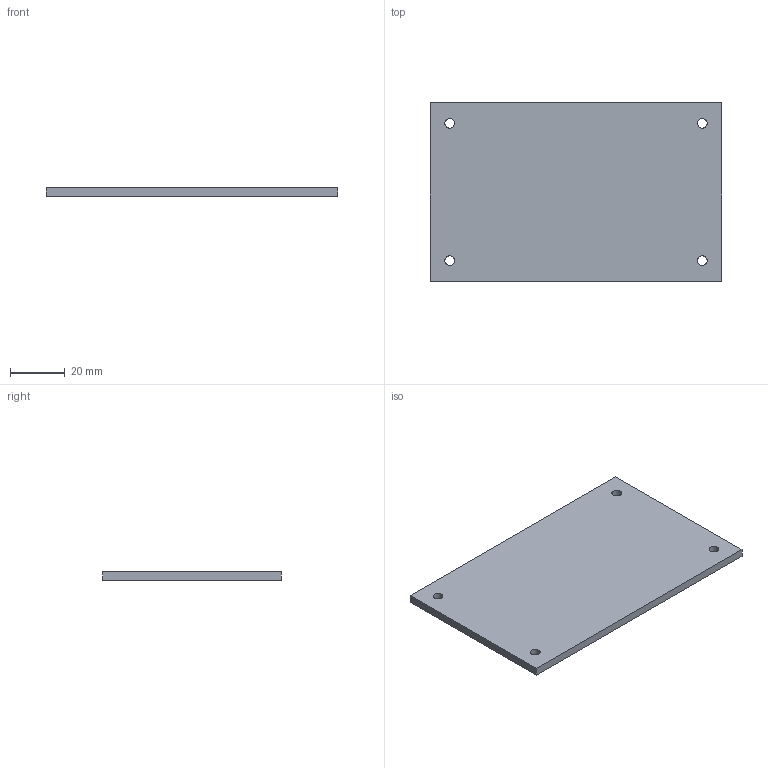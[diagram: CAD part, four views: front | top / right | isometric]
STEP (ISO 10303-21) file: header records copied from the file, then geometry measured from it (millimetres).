
FILE_DESCRIPTION(('Open CASCADE Model'),'2;1');
FILE_NAME('Open CASCADE Shape Model','2026-10-15T18:22:08',('Author'),( 'Open CASCADE'),'Open CASCADE STEP processor 7.9','Open CASCADE 7.9' ,'Unknown');
FILE_SCHEMA(('AUTOMOTIVE_DESIGN { 1 0 10303 214 1 1 1 1 }'));
Length unit declared in the file: millimetre
Products named in the file (1): Open CASCADE STEP translator 7.9 8
Bounding box: 106 x 65 x 3 mm (x, y, z)
Volume: 20554.5 mm3; surface area: 14861 mm2
Topology: 1 solids, 1 shells, 10 faces, 24 edges, 16 vertices
Faces by surface type: plane 6, cylinder 4
Full cylindrical faces by diameter (mm): 3.5 x4
Entity records: 634 total; most frequent: DIRECTION 102, CARTESIAN_POINT 99, LINE 56, VECTOR 56, ORIENTED_EDGE 48, PCURVE 48, DEFINITIONAL_REPRESENTATION 48, EDGE_CURVE 24
